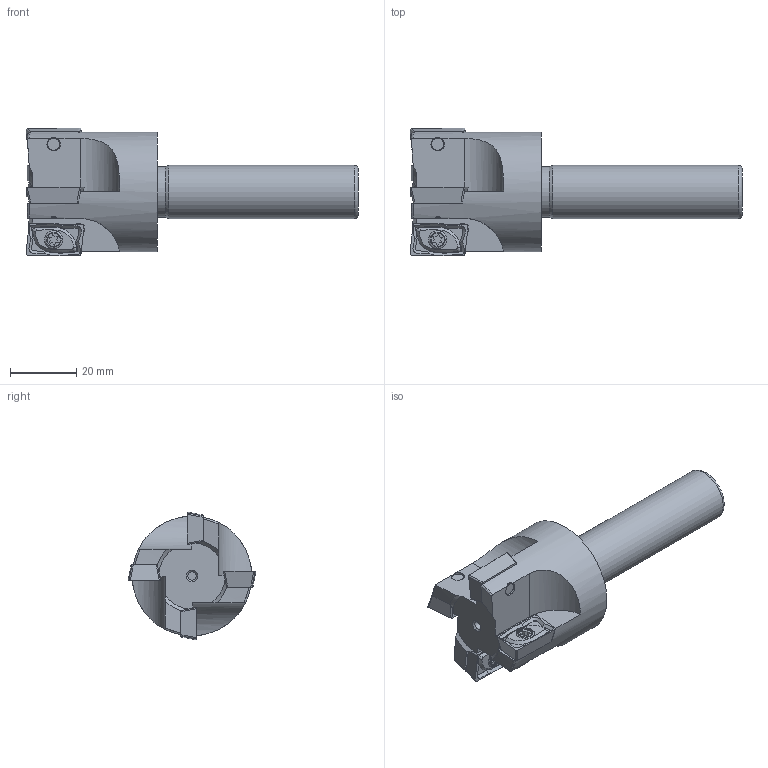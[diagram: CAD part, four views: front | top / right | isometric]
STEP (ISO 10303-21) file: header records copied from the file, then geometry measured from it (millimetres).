
FILE_DESCRIPTION(/* description */ (''),/* implementation_level */ '2;1');
FILE_NAME(/* name */ 'Z:\Проектный отдел\Арина\Фрезы\EAP400R-c16-38-100-4T\EAP400R-c16-38-100-4T.stp',/* time_stamp */ '2023-05-31T08:33:21+03:00',/* author */ ('user'),/* organization */ (''),/* preprocessor_version */ 'ST-DEVELOPER v18',/* originating_system */ 'Autodesk Inventor 2020',/* authorisation */ '');
FILE_SCHEMA (('AUTOMOTIVE_DESIGN { 1 0 10303 214 3 1 1 }'));
Length unit declared in the file: millimetre
Products named in the file (7): EAP400R-c20-38-100-4T; авампы; Напайка; Напайка_1; Напайка_2; Напайка_3; болт
Assembly tree (9 placements, depth 2):
  EAP400R-c20-38-100-4T
    авампы
    Напайка
    Напайка_1
    Напайка_2
    Напайка_3
    болт  x4
Bounding box: 100 x 38.55 x 38.55 mm (x, y, z)
Volume: 40930 mm3; surface area: 12909.2 mm2
Topology: 9 solids, 9 shells, 276 faces, 738 edges, 496 vertices
Faces by surface type: plane 130, bspline 64, cylinder 53, cone 20, torus 9
Full cylindrical faces by diameter (mm): 2.5 x2, 4 x12, 4.2 x4, 5.5 x8, 15.2 x1, 16 x1, 36 x1
Entity records: 10587 total; most frequent: CARTESIAN_POINT 5448, ORIENTED_EDGE 1134, DIRECTION 840, EDGE_CURVE 567, VERTEX_POINT 379, AXIS2_PLACEMENT_3D 323, EDGE_LOOP 236, FACE_OUTER_BOUND 210
